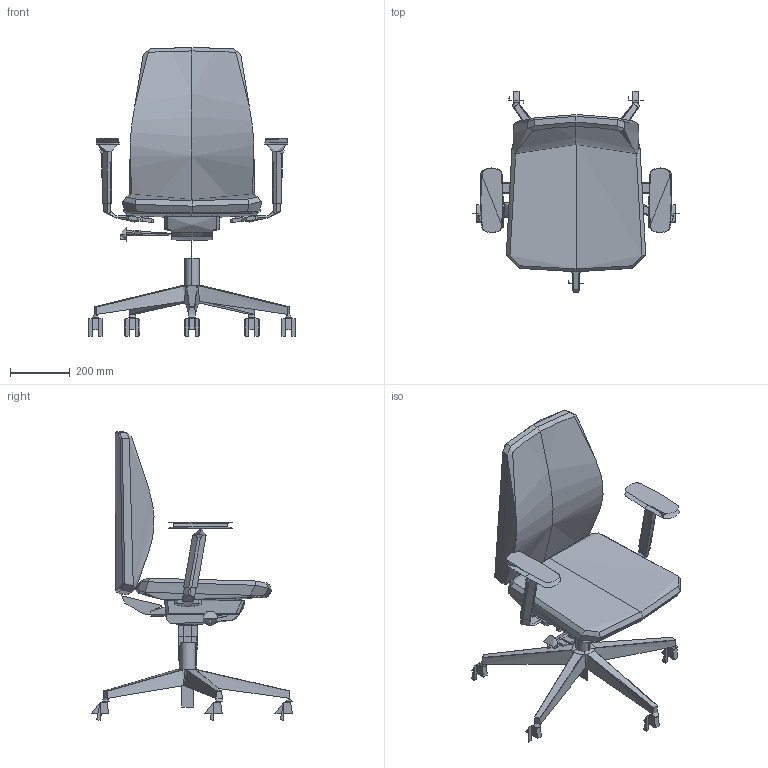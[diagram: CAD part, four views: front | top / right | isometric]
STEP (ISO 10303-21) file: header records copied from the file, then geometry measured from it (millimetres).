
FILE_DESCRIPTION(/* description */ (''),/* implementation_level */ '2;1');
FILE_NAME(/* name */ 'ALVA 332,SYA,BR-209',/* time_stamp */ '2022-03-03T20:53:45+01:00',/* author */ (''),/* organization */ (''),/* preprocessor_version */ 'ST-DEVELOPER v16.5',/* originating_system */ 'Rhino 7.15',/* authorisation */ '');
FILE_SCHEMA (('CONFIG_CONTROL_DESIGN'));
Length unit declared in the file: millimetre
Products named in the file (1): Document
Bounding box: 694.82 x 672.19 x 965.32 mm (x, y, z)
Volume: 13393364.7 mm3; surface area: 1818316.4 mm2
Topology: 13 solids, 56 shells, 448 faces, 1129 edges, 698 vertices
Faces by surface type: bspline 209, plane 134, cylinder 105
Entity records: 31491 total; most frequent: CARTESIAN_POINT 24634, ORIENTED_EDGE 2047, EDGE_CURVE 1111, VERTEX_POINT 698, B_SPLINE_CURVE_WITH_KNOTS 621, EDGE_LOOP 450, ADVANCED_FACE 448, FACE_OUTER_BOUND 448
